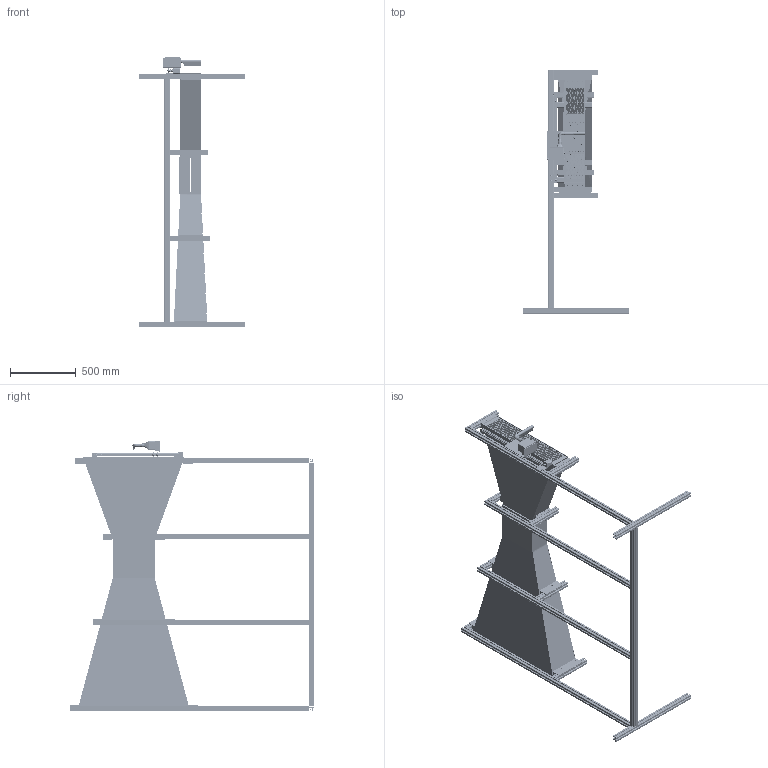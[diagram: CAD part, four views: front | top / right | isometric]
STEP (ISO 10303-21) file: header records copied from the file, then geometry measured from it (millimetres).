
FILE_DESCRIPTION(('CATIA V5 STEP Exchange'),'2;1');
FILE_NAME('C:\Users\cajal\Desktop\TFG definitivo\Tunel de viento_CAD.stp','2020-09-03T01:06:47+00:00',('none'),('none'),'CATIA Version 5 Release 21 GA (IN-10)','CATIA V5 STEP AP203','none');
FILE_SCHEMA(('CONFIG_CONTROL_DESIGN'));
Products named in the file (1): CONJUNTO TUNEL DE VIENTO step
Assembly tree (2 placements, depth 2):
  CONJUNTO TUNEL DE VIENTO step
    #58
    #6991
Bounding box: 800 x 1856.78 x 2056.84 mm (x, y, z)
Volume: 45429516.2 mm3; surface area: 17350110.1 mm2
Topology: 10 solids, 201 shells, 23584 faces, 70784 edges, 47413 vertices
Faces by surface type: plane 17815, bspline 3045, cylinder 2296, cone 303, sphere 66, torus 59
Full cylindrical faces by diameter (mm): 15.8 x2
Entity records: 840083 total; most frequent: CARTESIAN_POINT 233301, ORIENTED_EDGE 140519, DIRECTION 99379, EDGE_CURVE 70775, VECTOR 54687, LINE 54687, VERTEX_POINT 47413, EDGE_LOOP 28920
